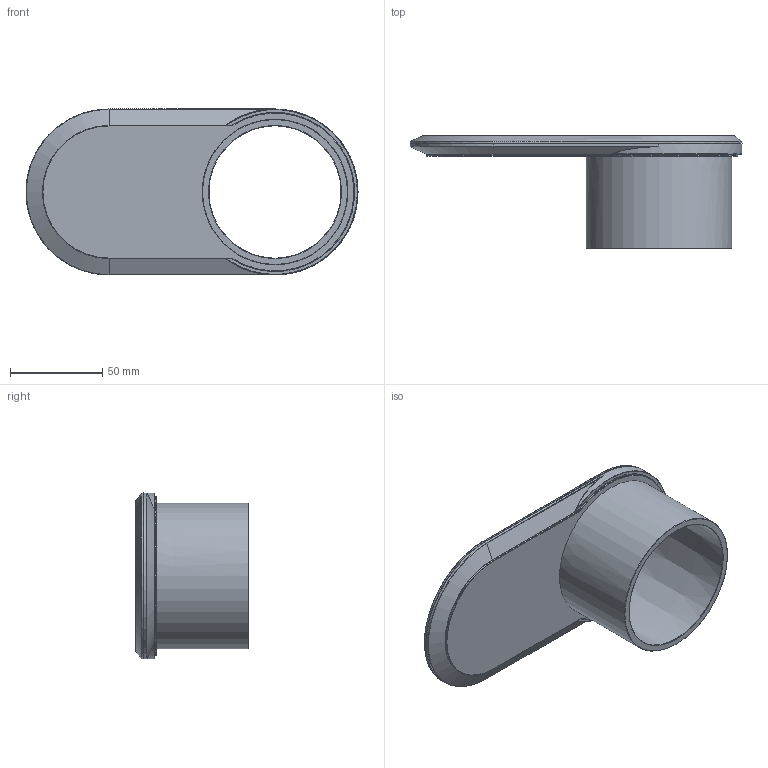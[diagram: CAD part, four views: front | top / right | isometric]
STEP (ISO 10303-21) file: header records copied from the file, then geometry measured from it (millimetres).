
FILE_DESCRIPTION (( 'STEP AP203' ), '1' );
FILE_NAME ('ARC-G_1.STEP', '2020-11-06T10:05:50', ( '' ), ( '' ), 'SwSTEP 2.0', 'SolidWorks 2019', '' );
FILE_SCHEMA (( 'CONFIG_CONTROL_DESIGN' ));
Length unit declared in the file: millimetre
Products named in the file (1): ARC-G_1
Bounding box: 180 x 61.3 x 90 mm (x, y, z)
Surface area: 51857.8 mm2 (no closed solid volume)
Topology: 0 solids, 1 shells, 912 faces, 2193 edges, 1445 vertices
Faces by surface type: plane 494, cylinder 316, bspline 69, torus 16, cone 15, sphere 2
Full cylindrical faces by diameter (mm): 79 x1
Entity records: 29351 total; most frequent: CARTESIAN_POINT 7883, DIRECTION 4390, ORIENTED_EDGE 4348, EDGE_CURVE 2174, AXIS2_PLACEMENT_3D 1522, VERTEX_POINT 1444, LINE 1346, VECTOR 1346
